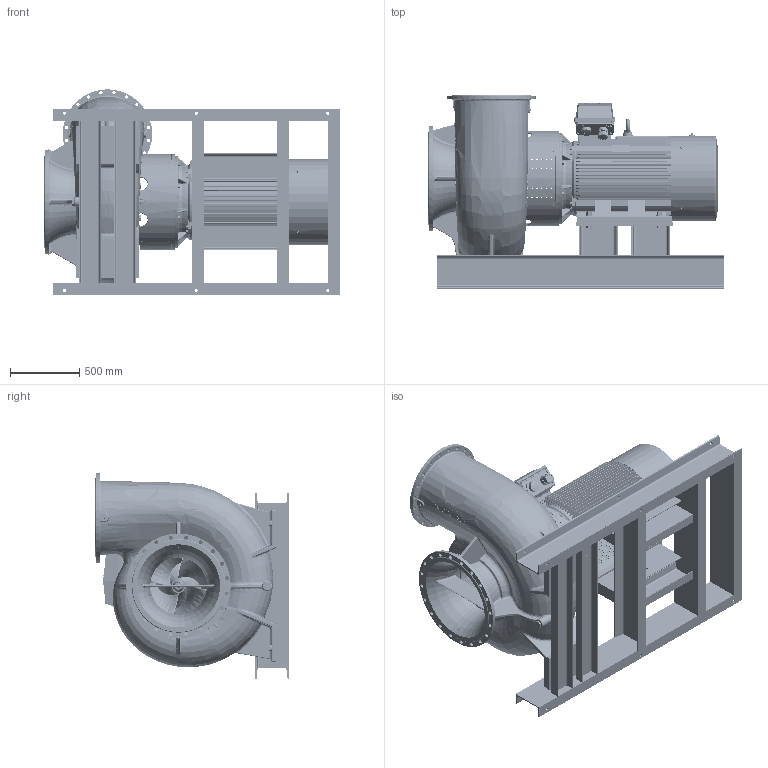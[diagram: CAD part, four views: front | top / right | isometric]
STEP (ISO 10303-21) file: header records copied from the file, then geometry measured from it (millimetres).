
FILE_DESCRIPTION((''),'2;1');
FILE_NAME('NSLH500-500_A02_FO_ASM','2024-05-28T',('maxz'),(''),'PRO/ENGINEER BY PARAMETRIC TECHNOLOGY CORPORATION, 2017170','PRO/ENGINEER BY PARAMETRIC TECHNOLOGY CORPORATION, 2017170','');
FILE_SCHEMA(('CONFIG_CONTROL_DESIGN'));
Products named in the file (46): 594170; 594210; 112117; 117304; 700953; 110248; 506842; 117280; 702103; 704371; 725989_1; 725989_2; 725989_ASM; 695710_ASM; 594190; 529280; 716824; 717871; 709627; 700923; 705252; 594260; 704033; 708678; 700324; 704390; 704190; 506955; 704391; 708178; 697949_ASM; 595110; 110852; 117281; 702247; 707398; 700327; 117282_AF0; 720488; 117282_AF1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
Assembly tree (127 placements, depth 5):
  NSLH500-500_A02_FO_ASM
    697949_ASM
      594170
      594210
      695710_ASM
        112117
        117304
        700953  x2
        110248
        506842
        117280
        702103
        704371  x4
        725989_ASM
          725989_1
          725989_2
      594190
      529280
      716824
      717871
      709627
      700923
      705252
      594260
      704033  x16
      708678  x16
      700324  x8
      704390  x4
      704190
      506955
      704391
      708178  x2
    695715_ASM
      595110
      110852
      117281
      702247  x8
      707398  x12
      700327  x4
      117282_AF0
      720488  x8
      117282_AF1
      701220  x4
      700399  x4
      721963  x4
    852642
Bounding box: 2130 x 1395 x 1482.5 mm (x, y, z)
Volume: 418317433.9 mm3; surface area: 35697929.6 mm2
Topology: 163 solids, 231 shells, 8918 faces, 22454 edges, 14122 vertices
Faces by surface type: plane 3191, cylinder 2094, cone 1382, bspline 1058, torus 521, extrusion 511, sphere 157, revolution 4
Entity records: 468868 total; most frequent: CARTESIAN_POINT 290923, ORIENTED_EDGE 39058, DIRECTION 32805, EDGE_CURVE 19651, VERTEX_POINT 12528, AXIS2_PLACEMENT_3D 12515, EDGE_LOOP 8715, VECTOR 7771
